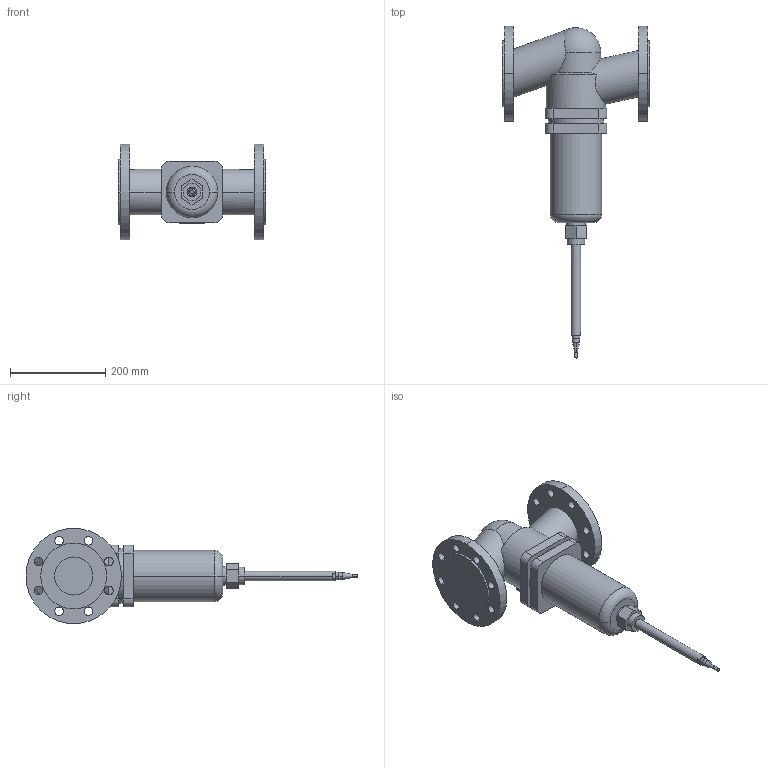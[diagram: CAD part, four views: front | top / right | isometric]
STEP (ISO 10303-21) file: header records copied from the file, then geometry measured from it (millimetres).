
FILE_DESCRIPTION(('CoCreate Modeling STEP Export'),'2;1');
FILE_NAME('c000004773.stp','2011-09-21T 8:39:14',(''),(''),'CoCreate Modeling STEP processor for AP214 (Solid Model)','CoCreate Modeling 17.0 01-Apr-2010 (C) Parametric Technology GmbH','');
FILE_SCHEMA(('AUTOMOTIVE_DESIGN { 1 0 10303 214 1 1 1 1 }'));
Length unit declared in the file: millimetre
Products named in the file (1): 1
Bounding box: 310 x 696.06 x 200 mm (x, y, z)
Volume: 6675421.8 mm3; surface area: 390437.3 mm2
Topology: 1 solids, 1 shells, 136 faces, 344 edges, 227 vertices
Faces by surface type: cylinder 76, plane 52, cone 4, torus 2, sphere 2
Entity records: 5228 total; most frequent: CARTESIAN_POINT 1058, ORIENTED_EDGE 684, DIRECTION 557, EDGE_CURVE 342, VERTEX_POINT 227, AXIS2_PLACEMENT_3D 198, EDGE_LOOP 187, VECTOR 161
